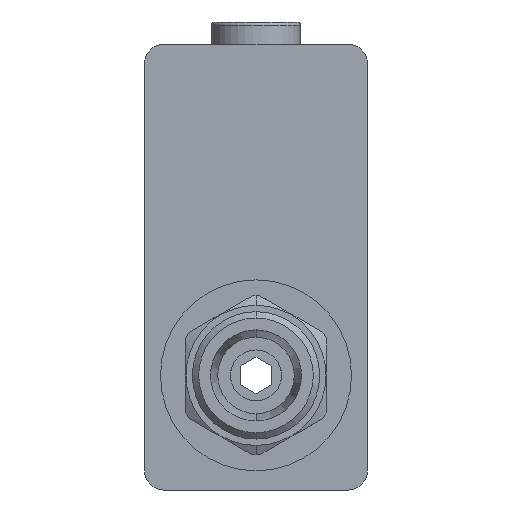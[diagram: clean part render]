
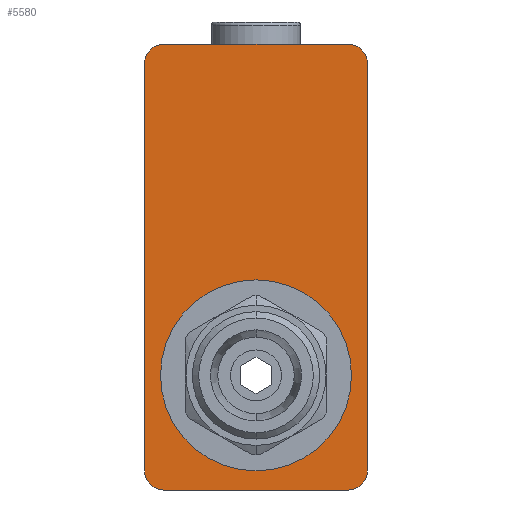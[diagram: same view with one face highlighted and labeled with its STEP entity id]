
A CAD part, left-side view. The second image highlights one B-rep face of the part: STEP entity #5580.
In plain terms, the highlighted planar face has unit normal (-1, 0, 0).
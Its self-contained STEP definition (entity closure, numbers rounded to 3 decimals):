
#171 = CARTESIAN_POINT ( 'NONE',  ( -46., -14.5, -32. ) ) ;
#309 = VERTEX_POINT ( 'NONE', #1135 ) ;
#358 = ORIENTED_EDGE ( 'NONE', *, *, #1950, .T. ) ;
#396 = VERTEX_POINT ( 'NONE', #3602 ) ;
#522 = LINE ( 'NONE', #4207, #2314 ) ;
#629 = DIRECTION ( 'NONE',  ( -1., 0., 0. ) ) ;
#776 = VERTEX_POINT ( 'NONE', #4033 ) ;
#886 = DIRECTION ( 'NONE',  ( 0., 0., -1. ) ) ;
#978 = CIRCLE ( 'NONE', #4689, 15. ) ;
#1025 = EDGE_CURVE ( 'NONE', #4863, #396, #3407, .T. ) ;
#1038 = AXIS2_PLACEMENT_3D ( 'NONE', #171, #629, #1981 ) ;
#1110 = DIRECTION ( 'NONE',  ( 0., 0., -1. ) ) ;
#1117 = DIRECTION ( 'NONE',  ( -1., 0., 0. ) ) ;
#1124 = EDGE_CURVE ( 'NONE', #4331, #5885, #3011, .T. ) ;
#1135 = CARTESIAN_POINT ( 'NONE',  ( -46., 17.5, 32. ) ) ;
#1141 = DIRECTION ( 'NONE',  ( 1., 0., 0. ) ) ;
#1160 = VECTOR ( 'NONE', #3146, 1000. ) ;
#1189 = DIRECTION ( 'NONE',  ( 1., 0., 0. ) ) ;
#1226 = LINE ( 'NONE', #4562, #3226 ) ;
#1232 = ORIENTED_EDGE ( 'NONE', *, *, #4720, .T. ) ;
#1397 = DIRECTION ( 'NONE',  ( -1., 0., 0. ) ) ;
#1528 = DIRECTION ( 'NONE',  ( 0., 1., 0. ) ) ;
#1561 = ORIENTED_EDGE ( 'NONE', *, *, #5941, .F. ) ;
#1583 = CIRCLE ( 'NONE', #3723, 3. ) ;
#1616 = VERTEX_POINT ( 'NONE', #3472 ) ;
#1869 = DIRECTION ( 'NONE',  ( 0., 0., 1. ) ) ;
#1950 = EDGE_CURVE ( 'NONE', #3212, #1616, #3610, .T. ) ;
#1981 = DIRECTION ( 'NONE',  ( 0., 0., -1. ) ) ;
#1986 = CARTESIAN_POINT ( 'NONE',  ( -46., -15., -17. ) ) ;
#2031 = VECTOR ( 'NONE', #2351, 1000. ) ;
#2081 = DIRECTION ( 'NONE',  ( 0., 0., -1. ) ) ;
#2112 = CARTESIAN_POINT ( 'NONE',  ( -46., 17.5, -35. ) ) ;
#2314 = VECTOR ( 'NONE', #1869, 1000. ) ;
#2337 = ORIENTED_EDGE ( 'NONE', *, *, #1124, .T. ) ;
#2351 = DIRECTION ( 'NONE',  ( 0., -1., 0. ) ) ;
#2449 = CIRCLE ( 'NONE', #2934, 3. ) ;
#2490 = CARTESIAN_POINT ( 'NONE',  ( -46., 17.5, -32. ) ) ;
#2498 = EDGE_CURVE ( 'NONE', #4863, #309, #5143, .T. ) ;
#2597 = DIRECTION ( 'NONE',  ( 0., 0., 1. ) ) ;
#2603 = AXIS2_PLACEMENT_3D ( 'NONE', #3200, #1397, #886 ) ;
#2731 = VERTEX_POINT ( 'NONE', #4828 ) ;
#2737 = VERTEX_POINT ( 'NONE', #2490 ) ;
#2872 = CARTESIAN_POINT ( 'NONE',  ( -46., 0., -17. ) ) ;
#2883 = DIRECTION ( 'NONE',  ( 0., 0., -1. ) ) ;
#2934 = AXIS2_PLACEMENT_3D ( 'NONE', #4361, #1117, #2081 ) ;
#2989 = DIRECTION ( 'NONE',  ( -1., 0., 0. ) ) ;
#3011 = CIRCLE ( 'NONE', #3508, 15. ) ;
#3022 = EDGE_CURVE ( 'NONE', #2737, #3212, #2449, .T. ) ;
#3042 = DIRECTION ( 'NONE',  ( 0., 1., 0. ) ) ;
#3146 = DIRECTION ( 'NONE',  ( 0., -1., 0. ) ) ;
#3200 = CARTESIAN_POINT ( 'NONE',  ( -46., 14.5, 32. ) ) ;
#3212 = VERTEX_POINT ( 'NONE', #5717 ) ;
#3223 = EDGE_CURVE ( 'NONE', #2731, #396, #1583, .T. ) ;
#3226 = VECTOR ( 'NONE', #2597, 1000. ) ;
#3407 = LINE ( 'NONE', #5280, #2031 ) ;
#3472 = CARTESIAN_POINT ( 'NONE',  ( -46., -14.5, -35. ) ) ;
#3508 = AXIS2_PLACEMENT_3D ( 'NONE', #2872, #1141, #1528 ) ;
#3602 = CARTESIAN_POINT ( 'NONE',  ( -46., -14.5, 35. ) ) ;
#3610 = LINE ( 'NONE', #2112, #1160 ) ;
#3723 = AXIS2_PLACEMENT_3D ( 'NONE', #4784, #2989, #1110 ) ;
#3826 = EDGE_CURVE ( 'NONE', #776, #2731, #522, .T. ) ;
#3934 = ORIENTED_EDGE ( 'NONE', *, *, #2498, .T. ) ;
#3937 = PLANE ( 'NONE',  #5974 ) ;
#3967 = CARTESIAN_POINT ( 'NONE',  ( -46., 0., -17. ) ) ;
#4028 = EDGE_LOOP ( 'NONE', ( #2337, #1232 ) ) ;
#4033 = CARTESIAN_POINT ( 'NONE',  ( -46., -17.5, -32. ) ) ;
#4207 = CARTESIAN_POINT ( 'NONE',  ( -46., -17.5, 35. ) ) ;
#4234 = ORIENTED_EDGE ( 'NONE', *, *, #4976, .T. ) ;
#4308 = CARTESIAN_POINT ( 'NONE',  ( -46., 17.5, 35. ) ) ;
#4331 = VERTEX_POINT ( 'NONE', #4899 ) ;
#4345 = EDGE_LOOP ( 'NONE', ( #1561, #5034, #358, #4234, #5088, #4422, #5966, #3934 ) ) ;
#4361 = CARTESIAN_POINT ( 'NONE',  ( -46., 14.5, -32. ) ) ;
#4422 = ORIENTED_EDGE ( 'NONE', *, *, #3223, .T. ) ;
#4562 = CARTESIAN_POINT ( 'NONE',  ( -46., 17.5, 35. ) ) ;
#4689 = AXIS2_PLACEMENT_3D ( 'NONE', #3967, #1189, #3042 ) ;
#4720 = EDGE_CURVE ( 'NONE', #5885, #4331, #978, .T. ) ;
#4765 = FACE_OUTER_BOUND ( 'NONE', #4345, .T. ) ;
#4784 = CARTESIAN_POINT ( 'NONE',  ( -46., -14.5, 32. ) ) ;
#4828 = CARTESIAN_POINT ( 'NONE',  ( -46., -17.5, 32. ) ) ;
#4858 = FACE_BOUND ( 'NONE', #4028, .T. ) ;
#4863 = VERTEX_POINT ( 'NONE', #5336 ) ;
#4899 = CARTESIAN_POINT ( 'NONE',  ( -46., 15., -17. ) ) ;
#4976 = EDGE_CURVE ( 'NONE', #1616, #776, #6008, .T. ) ;
#5034 = ORIENTED_EDGE ( 'NONE', *, *, #3022, .T. ) ;
#5088 = ORIENTED_EDGE ( 'NONE', *, *, #3826, .T. ) ;
#5143 = CIRCLE ( 'NONE', #2603, 3. ) ;
#5280 = CARTESIAN_POINT ( 'NONE',  ( -46., 17.5, 35. ) ) ;
#5336 = CARTESIAN_POINT ( 'NONE',  ( -46., 14.5, 35. ) ) ;
#5580 = ADVANCED_FACE ( 'NONE', ( #4858, #4765 ), #3937, .F. ) ;
#5674 = DIRECTION ( 'NONE',  ( 1., 0., 0. ) ) ;
#5717 = CARTESIAN_POINT ( 'NONE',  ( -46., 14.5, -35. ) ) ;
#5885 = VERTEX_POINT ( 'NONE', #1986 ) ;
#5941 = EDGE_CURVE ( 'NONE', #2737, #309, #1226, .T. ) ;
#5966 = ORIENTED_EDGE ( 'NONE', *, *, #1025, .F. ) ;
#5974 = AXIS2_PLACEMENT_3D ( 'NONE', #4308, #5674, #2883 ) ;
#6008 = CIRCLE ( 'NONE', #1038, 3. ) ;
